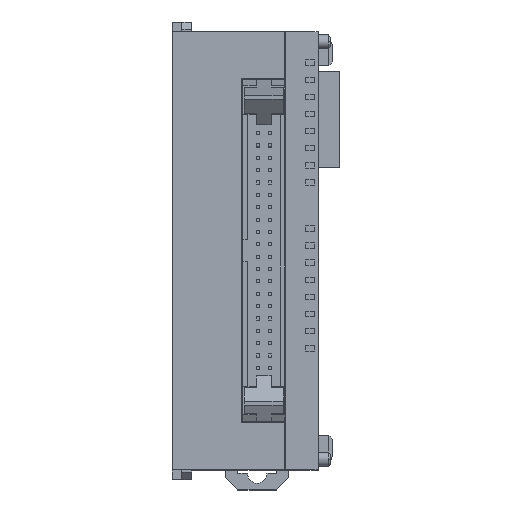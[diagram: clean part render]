
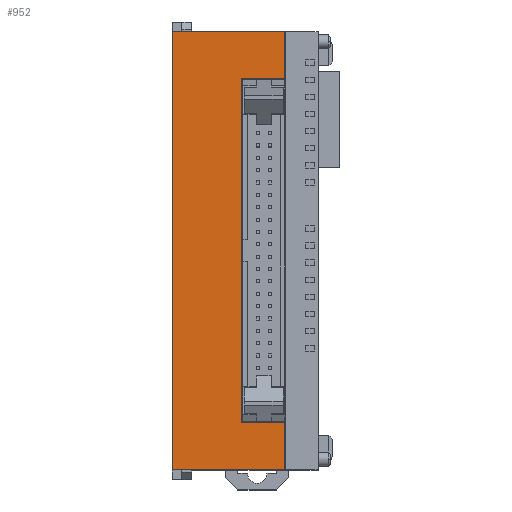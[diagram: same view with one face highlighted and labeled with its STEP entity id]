
A CAD part, top view. The second image highlights one B-rep face of the part: STEP entity #952.
In plain terms, the highlighted planar face has unit normal (0, 0, 1).
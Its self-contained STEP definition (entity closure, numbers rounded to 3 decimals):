
#935 = ORIENTED_EDGE ( 'NONE', *, *, #940, .F. ) ;
#937 = ORIENTED_EDGE ( 'NONE', *, *, #938, .F. ) ;
#938 = EDGE_CURVE ( 'NONE', #1701, #951, #12982, .T. ) ;
#940 = EDGE_CURVE ( 'NONE', #966, #3637, #12980, .T. ) ;
#942 = ORIENTED_EDGE ( 'NONE', *, *, #15643, .T. ) ;
#951 = VERTEX_POINT ( 'NONE', #13021 ) ;
#952 = ADVANCED_FACE ( 'NONE', ( #13016 ), #13020, .T. ) ;
#955 = EDGE_CURVE ( 'NONE', #951, #968, #13014, .T. ) ;
#956 = ORIENTED_EDGE ( 'NONE', *, *, #3719, .T. ) ;
#957 = ORIENTED_EDGE ( 'NONE', *, *, #960, .F. ) ;
#958 = ORIENTED_EDGE ( 'NONE', *, *, #1710, .T. ) ;
#959 = ORIENTED_EDGE ( 'NONE', *, *, #976, .F. ) ;
#960 = EDGE_CURVE ( 'NONE', #968, #965, #13017, .T. ) ;
#962 = EDGE_LOOP ( 'NONE', ( #959, #957, #972, #937, #958, #942, #956, #935 ) ) ;
#965 = VERTEX_POINT ( 'NONE', #13066 ) ;
#966 = VERTEX_POINT ( 'NONE', #13004 ) ;
#968 = VERTEX_POINT ( 'NONE', #13071 ) ;
#972 = ORIENTED_EDGE ( 'NONE', *, *, #955, .F. ) ;
#976 = EDGE_CURVE ( 'NONE', #965, #966, #13048, .T. ) ;
#1701 = VERTEX_POINT ( 'NONE', #14214 ) ;
#1706 = VERTEX_POINT ( 'NONE', #14226 ) ;
#1710 = EDGE_CURVE ( 'NONE', #1701, #1706, #14217, .T. ) ;
#3637 = VERTEX_POINT ( 'NONE', #17481 ) ;
#3716 = VERTEX_POINT ( 'NONE', #17609 ) ;
#3719 = EDGE_CURVE ( 'NONE', #3716, #3637, #17600, .T. ) ;
#12972 = CARTESIAN_POINT ( 'NONE',  ( -15., -45., 60. ) ) ;
#12975 = DIRECTION ( 'NONE',  ( 0., -1., 0. ) ) ;
#12976 = VECTOR ( 'NONE', #12975, 1000. ) ;
#12979 = CARTESIAN_POINT ( 'NONE',  ( 8.2, 45., 60. ) ) ;
#12980 = LINE ( 'NONE', #12979, #13032 ) ;
#12981 = CARTESIAN_POINT ( 'NONE',  ( 8.2, 45., 60. ) ) ;
#12982 = LINE ( 'NONE', #12981, #12976 ) ;
#13004 = CARTESIAN_POINT ( 'NONE',  ( 8.2, -35.4, 60. ) ) ;
#13005 = DIRECTION ( 'NONE',  ( -1., 0., 0. ) ) ;
#13006 = VECTOR ( 'NONE', #13005, 1000. ) ;
#13007 = VECTOR ( 'NONE', #13022, 1000. ) ;
#13011 = DIRECTION ( 'NONE',  ( 1., 0., 0. ) ) ;
#13012 = DIRECTION ( 'NONE',  ( 0., 0., 1. ) ) ;
#13013 = CARTESIAN_POINT ( 'NONE',  ( 8.3, 35.4, 60. ) ) ;
#13014 = LINE ( 'NONE', #13013, #13006 ) ;
#13016 = FACE_OUTER_BOUND ( 'NONE', #962, .T. ) ;
#13017 = LINE ( 'NONE', #13023, #13007 ) ;
#13020 = PLANE ( 'NONE',  #13026 ) ;
#13021 = CARTESIAN_POINT ( 'NONE',  ( 8.2, 35.4, 60. ) ) ;
#13022 = DIRECTION ( 'NONE',  ( 0., -1., 0. ) ) ;
#13023 = CARTESIAN_POINT ( 'NONE',  ( -0.7, 35.4, 60. ) ) ;
#13026 = AXIS2_PLACEMENT_3D ( 'NONE', #12972, #13012, #13011 ) ;
#13031 = DIRECTION ( 'NONE',  ( 0., -1., 0. ) ) ;
#13032 = VECTOR ( 'NONE', #13031, 1000. ) ;
#13045 = DIRECTION ( 'NONE',  ( 1., 0., 0. ) ) ;
#13046 = VECTOR ( 'NONE', #13045, 1000. ) ;
#13047 = CARTESIAN_POINT ( 'NONE',  ( 8.3, -35.4, 60. ) ) ;
#13048 = LINE ( 'NONE', #13047, #13046 ) ;
#13066 = CARTESIAN_POINT ( 'NONE',  ( -0.7, -35.4, 60. ) ) ;
#13071 = CARTESIAN_POINT ( 'NONE',  ( -0.7, 35.4, 60. ) ) ;
#14214 = CARTESIAN_POINT ( 'NONE',  ( 8.2, 45., 60. ) ) ;
#14217 = LINE ( 'NONE', #14267, #14266 ) ;
#14226 = CARTESIAN_POINT ( 'NONE',  ( -15., 45., 60. ) ) ;
#14265 = DIRECTION ( 'NONE',  ( -1., 0., 0. ) ) ;
#14266 = VECTOR ( 'NONE', #14265, 1000. ) ;
#14267 = CARTESIAN_POINT ( 'NONE',  ( -15., 45., 60. ) ) ;
#15643 = EDGE_CURVE ( 'NONE', #1706, #3716, #29794, .T. ) ;
#17481 = CARTESIAN_POINT ( 'NONE',  ( 8.2, -45., 60. ) ) ;
#17597 = DIRECTION ( 'NONE',  ( 1., 0., 0. ) ) ;
#17598 = VECTOR ( 'NONE', #17597, 1000. ) ;
#17599 = CARTESIAN_POINT ( 'NONE',  ( -15., -45., 60. ) ) ;
#17600 = LINE ( 'NONE', #17599, #17598 ) ;
#17609 = CARTESIAN_POINT ( 'NONE',  ( -15., -45., 60. ) ) ;
#29794 = LINE ( 'NONE', #29867, #29866 ) ;
#29865 = DIRECTION ( 'NONE',  ( 0., -1., 0. ) ) ;
#29866 = VECTOR ( 'NONE', #29865, 1000. ) ;
#29867 = CARTESIAN_POINT ( 'NONE',  ( -15., 45., 60. ) ) ;
